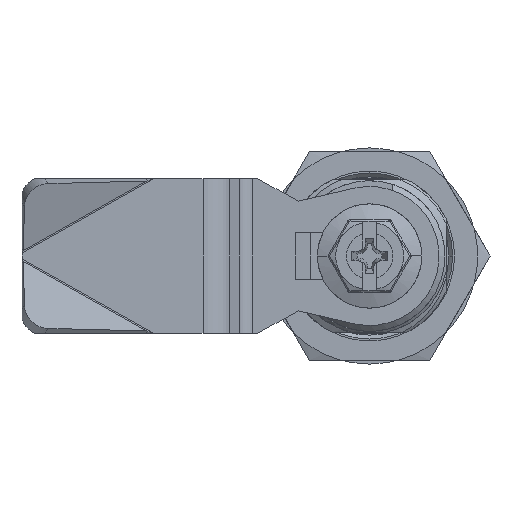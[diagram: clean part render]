
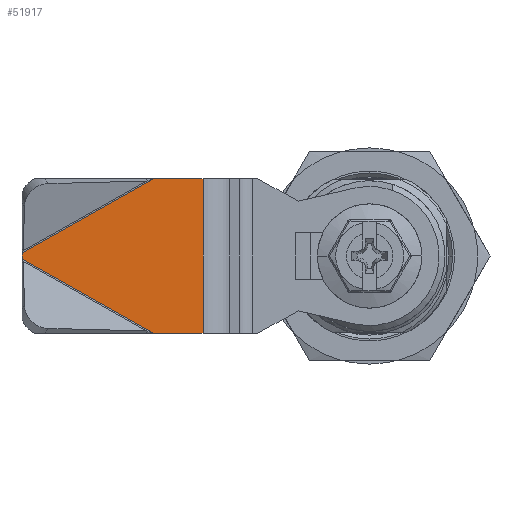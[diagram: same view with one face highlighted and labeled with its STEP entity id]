
A CAD part, front view. The second image highlights one B-rep face of the part: STEP entity #51917.
In plain terms, the highlighted planar face has unit normal (0, -1, 0).
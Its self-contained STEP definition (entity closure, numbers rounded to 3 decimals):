
#50890=DIRECTION('',(-1.,0.,0.));
#50891=VECTOR('',#50890,6.398);
#50892=CARTESIAN_POINT('',(27.964,-8.,10.));
#50893=LINE('',#50892,#50891);
#50958=CARTESIAN_POINT('',(45.,-8.,0.417));
#51000=DIRECTION('',(-0.872,0.,-0.49));
#51001=VECTOR('',#51000,19.546);
#51002=CARTESIAN_POINT('',(45.,-8.,-0.417));
#51003=LINE('',#51002,#51001);
#51004=DIRECTION('',(-0.872,0.,0.49));
#51005=VECTOR('',#51004,19.546);
#51006=CARTESIAN_POINT('',(45.,-8.,0.417));
#51007=LINE('',#51006,#51005);
#51008=DIRECTION('',(0.,0.,1.));
#51009=VECTOR('',#51008,0.835);
#51010=CARTESIAN_POINT('',(45.,-8.,-0.417));
#51011=LINE('',#51010,#51009);
#51056=DIRECTION('',(-1.,0.,0.));
#51057=VECTOR('',#51056,6.398);
#51058=CARTESIAN_POINT('',(27.964,-8.,-10.));
#51059=LINE('',#51058,#51057);
#51147=DIRECTION('',(0.,0.,1.));
#51148=VECTOR('',#51147,20.);
#51149=CARTESIAN_POINT('',(21.566,-8.,-10.));
#51150=LINE('',#51149,#51148);
#51507=CARTESIAN_POINT('',(21.566,-8.,-10.));
#51509=VERTEX_POINT('',#51507);
#51554=CARTESIAN_POINT('',(21.566,-8.,10.));
#51555=VERTEX_POINT('',#51554);
#51564=CARTESIAN_POINT('',(27.964,-8.,10.));
#51565=VERTEX_POINT('',#51564);
#51570=VERTEX_POINT('',#50958);
#51571=CARTESIAN_POINT('',(27.964,-8.,-10.));
#51572=VERTEX_POINT('',#51571);
#51573=CARTESIAN_POINT('',(45.,-8.,-0.417));
#51574=VERTEX_POINT('',#51573);
#51901=CARTESIAN_POINT('',(45.,-8.,-10.));
#51902=DIRECTION('',(0.,1.,0.));
#51903=DIRECTION('',(-1.,0.,0.));
#51904=AXIS2_PLACEMENT_3D('',#51901,#51902,#51903);
#51905=PLANE('',#51904);
#51907=ORIENTED_EDGE('',*,*,#51906,.T.);
#51909=ORIENTED_EDGE('',*,*,#51908,.T.);
#51911=ORIENTED_EDGE('',*,*,#51910,.T.);
#51912=ORIENTED_EDGE('',*,*,#51731,.F.);
#51913=ORIENTED_EDGE('',*,*,#51836,.F.);
#51914=ORIENTED_EDGE('',*,*,#51677,.F.);
#51915=EDGE_LOOP('',(#51907,#51909,#51911,#51912,#51913,#51914));
#51916=FACE_OUTER_BOUND('',#51915,.F.);
#51917=ADVANCED_FACE('',(#51916),#51905,.F.);
#51677=EDGE_CURVE('',#51574,#51570,#51011,.T.);
#51731=EDGE_CURVE('',#51565,#51555,#50893,.T.);
#51836=EDGE_CURVE('',#51570,#51565,#51007,.T.);
#51906=EDGE_CURVE('',#51574,#51572,#51003,.T.);
#51908=EDGE_CURVE('',#51572,#51509,#51059,.T.);
#51910=EDGE_CURVE('',#51509,#51555,#51150,.T.);
